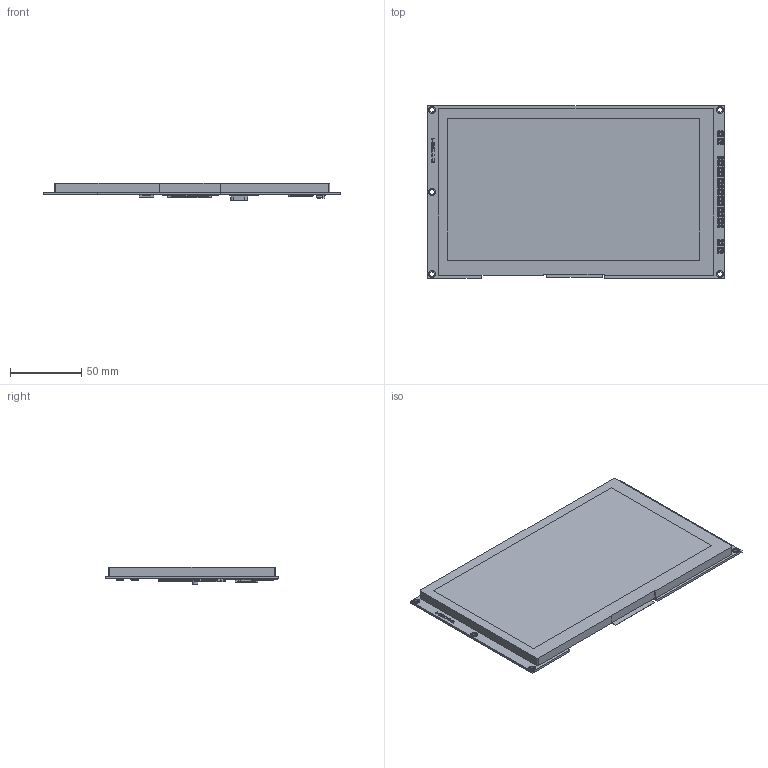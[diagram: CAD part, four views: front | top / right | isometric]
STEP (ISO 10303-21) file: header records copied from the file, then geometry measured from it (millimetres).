
FILE_DESCRIPTION(('HOOPS Exchange Step'),'2;1');
FILE_NAME('\\Server-1\e\公共文件夹\7.产品资料库\彩色-TFT\8寸\ER-TFTM080-1\3D\ER-TFTM080-1_3D.step','2021-01-28T10:35:07+08:00',('Administrator'),('Unknown organisation'),'HOOPS Exchange 2018.2','glovius.exe','Unknown authorisation');
FILE_SCHEMA( ('AUTOMOTIVE_DESIGN { 1 0 10303 214 1 1 1 1 }') );
Length unit declared in the file: millimetre
Products named in the file (11): ER-TFTM080-1-1; 连接器_50-Pin - 副本-1; 连接器_50-Pin-1; 主控IC_new-1; 晶振-1; SD卡座-1; 连接器_6-Pin-1; FLASH_IC-1; 连接器_4脚-Pin-1; Default; ER-TFTM080-1
Assembly tree (11 placements, depth 3):
  ER-TFTM080-1
    Default
      ER-TFTM080-1-1
      连接器_50-Pin - 副本-1
      连接器_50-Pin-1
      主控IC_new-1
      晶振-1
      SD卡座-1
      连接器_6-Pin-1
      FLASH_IC-1  x2
      连接器_4脚-Pin-1
Bounding box: 207.8 x 120.9 x 12.5 mm (x, y, z)
Volume: 185330.6 mm3; surface area: 79727.4 mm2
Topology: 223 solids, 223 shells, 9636 faces, 24826 edges, 15840 vertices
Faces by surface type: bspline 9636
Entity records: 917178 total; most frequent: CARTESIAN_POINT 602350, B_SPLINE_CURVE_WITH_KNOTS 65769, DEFINITIONAL_REPRESENTATION 48384, PCURVE 48384, ORIENTED_EDGE 48384, INTERSECTION_CURVE 24192, EDGE_CURVE 24192, VERTEX_POINT 15612
